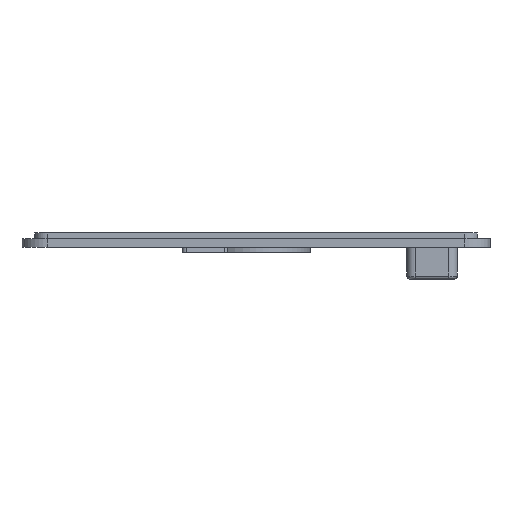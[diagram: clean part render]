
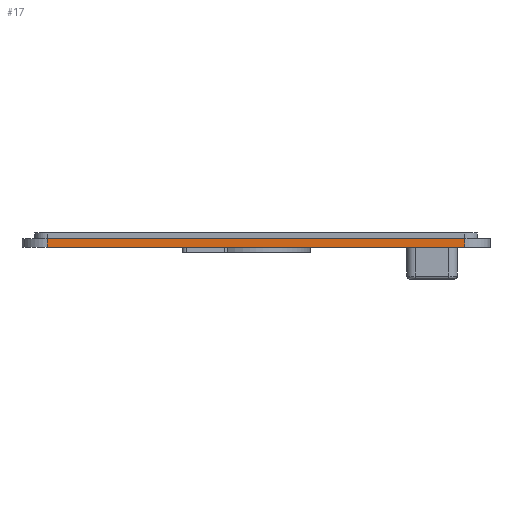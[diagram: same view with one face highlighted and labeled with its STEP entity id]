
A CAD part, left-side view. The second image highlights one B-rep face of the part: STEP entity #17.
In plain terms, the highlighted planar face has unit normal (-1, 0, 0).
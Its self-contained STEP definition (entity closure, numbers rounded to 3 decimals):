
#17 = ADVANCED_FACE('',(#18),#32,.F.);
#18 = FACE_BOUND('',#19,.T.);
#19 = EDGE_LOOP('',(#20,#55,#83,#111));
#20 = ORIENTED_EDGE('',*,*,#21,.F.);
#21 = EDGE_CURVE('',#22,#24,#26,.T.);
#22 = VERTEX_POINT('',#23);
#23 = CARTESIAN_POINT('',(-39.5,-24.9,0.));
#24 = VERTEX_POINT('',#25);
#25 = CARTESIAN_POINT('',(-39.5,24.9,0.));
#26 = SURFACE_CURVE('',#27,(#31,#43),.PCURVE_S1.);
#27 = LINE('',#28,#29);
#28 = CARTESIAN_POINT('',(-39.5,-27.9,0.));
#29 = VECTOR('',#30,1.);
#30 = DIRECTION('',(-0.,1.,0.));
#31 = PCURVE('',#32,#37);
#32 = PLANE('',#33);
#33 = AXIS2_PLACEMENT_3D('',#34,#35,#36);
#34 = CARTESIAN_POINT('',(-39.5,-27.9,1.));
#35 = DIRECTION('',(1.,0.,-0.));
#36 = DIRECTION('',(0.,0.,1.));
#37 = DEFINITIONAL_REPRESENTATION('',(#38),#42);
#38 = LINE('',#39,#40);
#39 = CARTESIAN_POINT('',(-1.,0.));
#40 = VECTOR('',#41,1.);
#41 = DIRECTION('',(-0.,-1.));
#42 = ( GEOMETRIC_REPRESENTATION_CONTEXT(2) 
PARAMETRIC_REPRESENTATION_CONTEXT() REPRESENTATION_CONTEXT('2D SPACE',''
  ) );
#43 = PCURVE('',#44,#49);
#44 = PLANE('',#45);
#45 = AXIS2_PLACEMENT_3D('',#46,#47,#48);
#46 = CARTESIAN_POINT('',(-39.5,-27.9,0.));
#47 = DIRECTION('',(0.,-0.,-1.));
#48 = DIRECTION('',(-1.,0.,0.));
#49 = DEFINITIONAL_REPRESENTATION('',(#50),#54);
#50 = LINE('',#51,#52);
#51 = CARTESIAN_POINT('',(-0.,0.));
#52 = VECTOR('',#53,1.);
#53 = DIRECTION('',(-0.,1.));
#54 = ( GEOMETRIC_REPRESENTATION_CONTEXT(2) 
PARAMETRIC_REPRESENTATION_CONTEXT() REPRESENTATION_CONTEXT('2D SPACE',''
  ) );
#55 = ORIENTED_EDGE('',*,*,#56,.F.);
#56 = EDGE_CURVE('',#57,#22,#59,.T.);
#57 = VERTEX_POINT('',#58);
#58 = CARTESIAN_POINT('',(-39.5,-24.9,1.));
#59 = SURFACE_CURVE('',#60,(#64,#71),.PCURVE_S1.);
#60 = LINE('',#61,#62);
#61 = CARTESIAN_POINT('',(-39.5,-24.9,1.));
#62 = VECTOR('',#63,1.);
#63 = DIRECTION('',(-0.,-0.,-1.));
#64 = PCURVE('',#32,#65);
#65 = DEFINITIONAL_REPRESENTATION('',(#66),#70);
#66 = LINE('',#67,#68);
#67 = CARTESIAN_POINT('',(-0.,-3.));
#68 = VECTOR('',#69,1.);
#69 = DIRECTION('',(-1.,0.));
#70 = ( GEOMETRIC_REPRESENTATION_CONTEXT(2) 
PARAMETRIC_REPRESENTATION_CONTEXT() REPRESENTATION_CONTEXT('2D SPACE',''
  ) );
#71 = PCURVE('',#72,#77);
#72 = CYLINDRICAL_SURFACE('',#73,3.);
#73 = AXIS2_PLACEMENT_3D('',#74,#75,#76);
#74 = CARTESIAN_POINT('',(-36.5,-24.9,1.));
#75 = DIRECTION('',(-0.,-0.,-1.));
#76 = DIRECTION('',(-1.,-0.,-0.));
#77 = DEFINITIONAL_REPRESENTATION('',(#78),#82);
#78 = LINE('',#79,#80);
#79 = CARTESIAN_POINT('',(-0.,0.));
#80 = VECTOR('',#81,1.);
#81 = DIRECTION('',(-0.,1.));
#82 = ( GEOMETRIC_REPRESENTATION_CONTEXT(2) 
PARAMETRIC_REPRESENTATION_CONTEXT() REPRESENTATION_CONTEXT('2D SPACE',''
  ) );
#83 = ORIENTED_EDGE('',*,*,#84,.T.);
#84 = EDGE_CURVE('',#57,#85,#87,.T.);
#85 = VERTEX_POINT('',#86);
#86 = CARTESIAN_POINT('',(-39.5,24.9,1.));
#87 = SURFACE_CURVE('',#88,(#92,#99),.PCURVE_S1.);
#88 = LINE('',#89,#90);
#89 = CARTESIAN_POINT('',(-39.5,-27.9,1.));
#90 = VECTOR('',#91,1.);
#91 = DIRECTION('',(-0.,1.,0.));
#92 = PCURVE('',#32,#93);
#93 = DEFINITIONAL_REPRESENTATION('',(#94),#98);
#94 = LINE('',#95,#96);
#95 = CARTESIAN_POINT('',(-0.,-0.));
#96 = VECTOR('',#97,1.);
#97 = DIRECTION('',(-0.,-1.));
#98 = ( GEOMETRIC_REPRESENTATION_CONTEXT(2) 
PARAMETRIC_REPRESENTATION_CONTEXT() REPRESENTATION_CONTEXT('2D SPACE',''
  ) );
#99 = PCURVE('',#100,#105);
#100 = PLANE('',#101);
#101 = AXIS2_PLACEMENT_3D('',#102,#103,#104);
#102 = CARTESIAN_POINT('',(-39.5,-27.9,1.));
#103 = DIRECTION('',(0.,-0.,-1.));
#104 = DIRECTION('',(-1.,0.,0.));
#105 = DEFINITIONAL_REPRESENTATION('',(#106),#110);
#106 = LINE('',#107,#108);
#107 = CARTESIAN_POINT('',(-0.,0.));
#108 = VECTOR('',#109,1.);
#109 = DIRECTION('',(-0.,1.));
#110 = ( GEOMETRIC_REPRESENTATION_CONTEXT(2) 
PARAMETRIC_REPRESENTATION_CONTEXT() REPRESENTATION_CONTEXT('2D SPACE',''
  ) );
#111 = ORIENTED_EDGE('',*,*,#112,.T.);
#112 = EDGE_CURVE('',#85,#24,#113,.T.);
#113 = SURFACE_CURVE('',#114,(#118,#125),.PCURVE_S1.);
#114 = LINE('',#115,#116);
#115 = CARTESIAN_POINT('',(-39.5,24.9,1.));
#116 = VECTOR('',#117,1.);
#117 = DIRECTION('',(-0.,-0.,-1.));
#118 = PCURVE('',#32,#119);
#119 = DEFINITIONAL_REPRESENTATION('',(#120),#124);
#120 = LINE('',#121,#122);
#121 = CARTESIAN_POINT('',(-0.,-52.8));
#122 = VECTOR('',#123,1.);
#123 = DIRECTION('',(-1.,0.));
#124 = ( GEOMETRIC_REPRESENTATION_CONTEXT(2) 
PARAMETRIC_REPRESENTATION_CONTEXT() REPRESENTATION_CONTEXT('2D SPACE',''
  ) );
#125 = PCURVE('',#126,#131);
#126 = CYLINDRICAL_SURFACE('',#127,3.);
#127 = AXIS2_PLACEMENT_3D('',#128,#129,#130);
#128 = CARTESIAN_POINT('',(-36.5,24.9,1.));
#129 = DIRECTION('',(-0.,-0.,-1.));
#130 = DIRECTION('',(-1.,-0.,-0.));
#131 = DEFINITIONAL_REPRESENTATION('',(#132),#136);
#132 = LINE('',#133,#134);
#133 = CARTESIAN_POINT('',(0.,0.));
#134 = VECTOR('',#135,1.);
#135 = DIRECTION('',(0.,1.));
#136 = ( GEOMETRIC_REPRESENTATION_CONTEXT(2) 
PARAMETRIC_REPRESENTATION_CONTEXT() REPRESENTATION_CONTEXT('2D SPACE',''
  ) );
